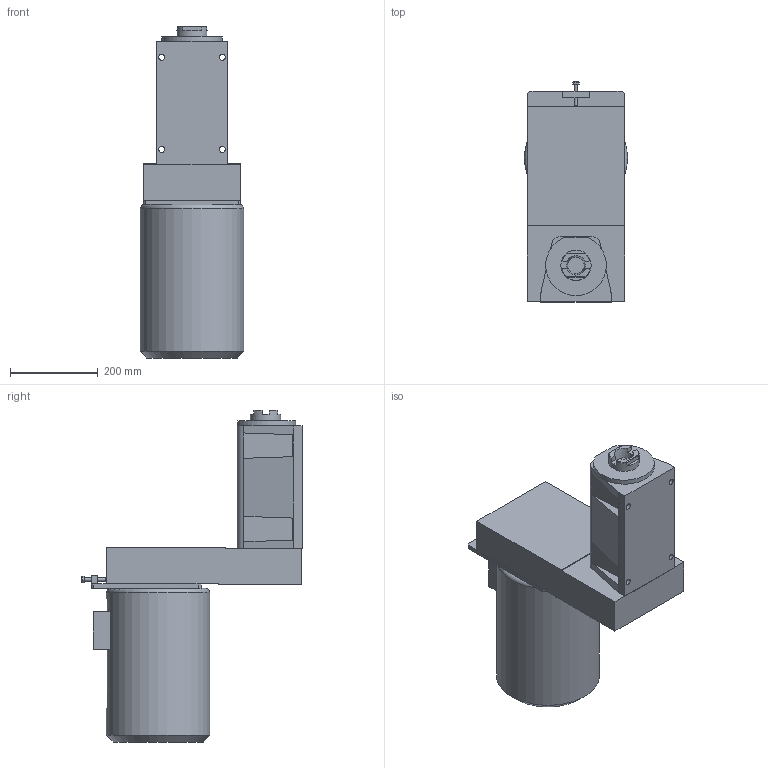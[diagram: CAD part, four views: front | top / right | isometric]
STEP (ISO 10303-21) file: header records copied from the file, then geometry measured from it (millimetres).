
FILE_DESCRIPTION((''),'2;1');
FILE_NAME('C:\VaultWork\Zeichnungen\Maßblätter\Maßblatt BF4-SK40 Z-Laterne\BF01303-3-1 Maßblatt BF4-Sk40 Z-Laterne.stp','2010-07-08T13:38:14',('Test'),(''),'Autodesk Inventor 2008','Autodesk Inventor 2008','');
FILE_SCHEMA(('AUTOMOTIVE_DESIGN { 1 0 10303 214 1 1 1 1 }'));
Length unit declared in the file: millimetre
Products named in the file (1): BF01303-3-1 Maßblatt BF4-Sk40 Z-Laterne
Bounding box: 235 x 501.3 x 756.2 mm (x, y, z)
Volume: 29498020.2 mm3; surface area: 822354 mm2
Topology: 2 solids, 2 shells, 141 faces, 343 edges, 217 vertices
Faces by surface type: plane 82, bspline 22, cylinder 21, cone 15, torus 1
Full cylindrical faces by diameter (mm): 8 x2, 11.63 x1, 69 x2, 235 x1
Entity records: 4209 total; most frequent: CARTESIAN_POINT 919, ORIENTED_EDGE 624, DIRECTION 618, EDGE_CURVE 312, AXIS2_PLACEMENT_3D 211, VERTEX_POINT 208, VECTOR 196, LINE 196
